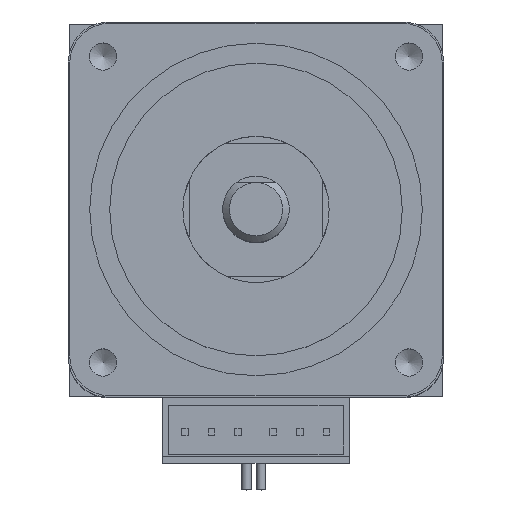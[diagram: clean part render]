
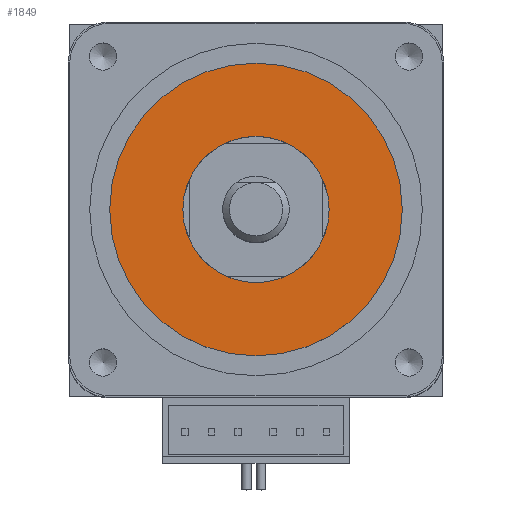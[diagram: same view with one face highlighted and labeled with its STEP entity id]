
A CAD part, top view. The second image highlights one B-rep face of the part: STEP entity #1849.
In plain terms, the highlighted planar face has unit normal (0, 0, 1).
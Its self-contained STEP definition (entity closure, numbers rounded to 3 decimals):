
#1849=ADVANCED_FACE('',(#2327,#2328),#2123,.F.);
#2123=PLANE('',#5771);
#2327=FACE_BOUND('',#2644,.T.);
#2328=FACE_BOUND('',#2645,.T.);
#2644=EDGE_LOOP('',(#3844));
#2645=EDGE_LOOP('',(#3845));
#3844=ORIENTED_EDGE('',*,*,#5191,.F.);
#3845=ORIENTED_EDGE('',*,*,#5193,.F.);
#4530=VERTEX_POINT('',#8991);
#4532=VERTEX_POINT('',#8996);
#5191=EDGE_CURVE('',#4530,#4530,#5426,.T.);
#5193=EDGE_CURVE('',#4532,#4532,#5428,.T.);
#5426=CIRCLE('',#5765,11.);
#5428=CIRCLE('',#5768,5.5);
#5765=AXIS2_PLACEMENT_3D('',#8990,#6928,#6929);
#5768=AXIS2_PLACEMENT_3D('',#8995,#6934,#6935);
#5771=AXIS2_PLACEMENT_3D('',#9000,#6940,#6941);
#6928=DIRECTION('',(0.,0.,-1.));
#6929=DIRECTION('',(1.,0.,0.));
#6934=DIRECTION('',(0.,0.,1.));
#6935=DIRECTION('',(1.,0.,0.));
#6940=DIRECTION('',(0.,0.,-1.));
#6941=DIRECTION('',(-1.,0.,0.));
#8990=CARTESIAN_POINT('',(0.,0.,1.5));
#8991=CARTESIAN_POINT('',(11.,0.,1.5));
#8995=CARTESIAN_POINT('',(0.,0.,1.5));
#8996=CARTESIAN_POINT('',(5.5,0.,1.5));
#9000=CARTESIAN_POINT('',(0.,0.,1.5));
